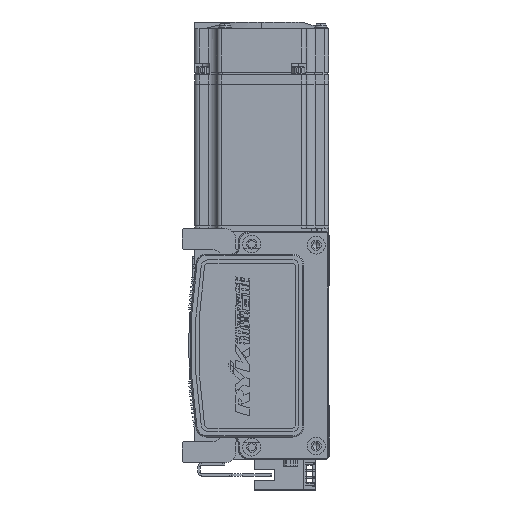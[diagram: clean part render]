
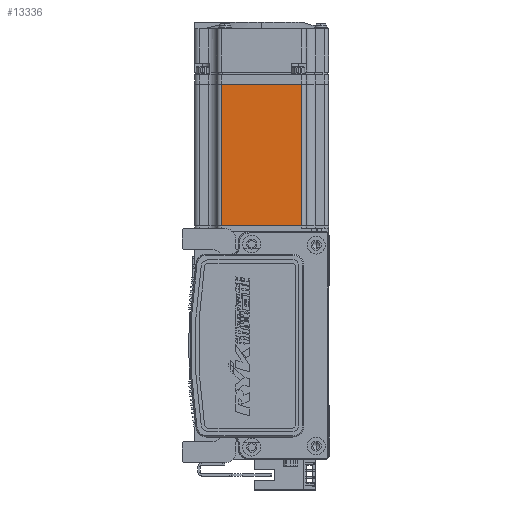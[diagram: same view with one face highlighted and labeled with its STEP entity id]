
A CAD part, left-side view. The second image highlights one B-rep face of the part: STEP entity #13336.
In plain terms, the highlighted planar face has unit normal (-1, 0, 0) as drawn and (0, 0, -1) by its records, which use the part's own axes.
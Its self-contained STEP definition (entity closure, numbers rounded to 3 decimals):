
#1789 = DIRECTION ( 'NONE',  ( 0., -1., 0. ) ) ;
#4730 = VECTOR ( 'NONE', #34335, 1000. ) ;
#7315 = AXIS2_PLACEMENT_3D ( 'NONE', #16362, #37333, #32658 ) ;
#7994 = CARTESIAN_POINT ( 'NONE',  ( -70.95, -18., -30. ) ) ;
#13336 = ADVANCED_FACE ( 'NONE', ( #26894 ), #21325, .T. ) ;
#16010 = ORIENTED_EDGE ( 'NONE', *, *, #20670, .T. ) ;
#16258 = LINE ( 'NONE', #69145, #51620 ) ;
#16362 = CARTESIAN_POINT ( 'NONE',  ( -6.5, 25., -30. ) ) ;
#18964 = CARTESIAN_POINT ( 'NONE',  ( -6.5, -18., -30. ) ) ;
#19876 = ORIENTED_EDGE ( 'NONE', *, *, #38525, .T. ) ;
#20670 = EDGE_CURVE ( 'NONE', #48940, #54143, #52701, .T. ) ;
#21325 = PLANE ( 'NONE',  #7315 ) ;
#21527 = EDGE_LOOP ( 'NONE', ( #61012, #19876, #16010, #46924 ) ) ;
#21668 = EDGE_CURVE ( 'NONE', #49930, #43435, #34981, .T. ) ;
#22515 = CARTESIAN_POINT ( 'NONE',  ( -7.75, 18., -30. ) ) ;
#24083 = VECTOR ( 'NONE', #66813, 1000. ) ;
#26894 = FACE_OUTER_BOUND ( 'NONE', #21527, .T. ) ;
#27083 = EDGE_CURVE ( 'NONE', #54143, #49930, #16258, .T. ) ;
#31913 = DIRECTION ( 'NONE',  ( 1., 0., 0. ) ) ;
#32658 = DIRECTION ( 'NONE',  ( -1., 0., 0. ) ) ;
#34335 = DIRECTION ( 'NONE',  ( -1., 0., 0. ) ) ;
#34981 = LINE ( 'NONE', #50156, #55156 ) ;
#37333 = DIRECTION ( 'NONE',  ( 0., 0., -1. ) ) ;
#38525 = EDGE_CURVE ( 'NONE', #43435, #48940, #54530, .T. ) ;
#41209 = CARTESIAN_POINT ( 'NONE',  ( -7.75, -18., -30. ) ) ;
#43435 = VERTEX_POINT ( 'NONE', #41209 ) ;
#46924 = ORIENTED_EDGE ( 'NONE', *, *, #27083, .T. ) ;
#48940 = VERTEX_POINT ( 'NONE', #7994 ) ;
#49930 = VERTEX_POINT ( 'NONE', #22515 ) ;
#50156 = CARTESIAN_POINT ( 'NONE',  ( -7.75, 25., -30. ) ) ;
#51620 = VECTOR ( 'NONE', #31913, 1000. ) ;
#52701 = LINE ( 'NONE', #55723, #24083 ) ;
#54143 = VERTEX_POINT ( 'NONE', #55515 ) ;
#54530 = LINE ( 'NONE', #18964, #4730 ) ;
#55156 = VECTOR ( 'NONE', #1789, 1000. ) ;
#55515 = CARTESIAN_POINT ( 'NONE',  ( -70.95, 18., -30. ) ) ;
#55723 = CARTESIAN_POINT ( 'NONE',  ( -70.95, 25., -30. ) ) ;
#61012 = ORIENTED_EDGE ( 'NONE', *, *, #21668, .T. ) ;
#66813 = DIRECTION ( 'NONE',  ( 0., 1., 0. ) ) ;
#69145 = CARTESIAN_POINT ( 'NONE',  ( -6.5, 18., -30. ) ) ;
